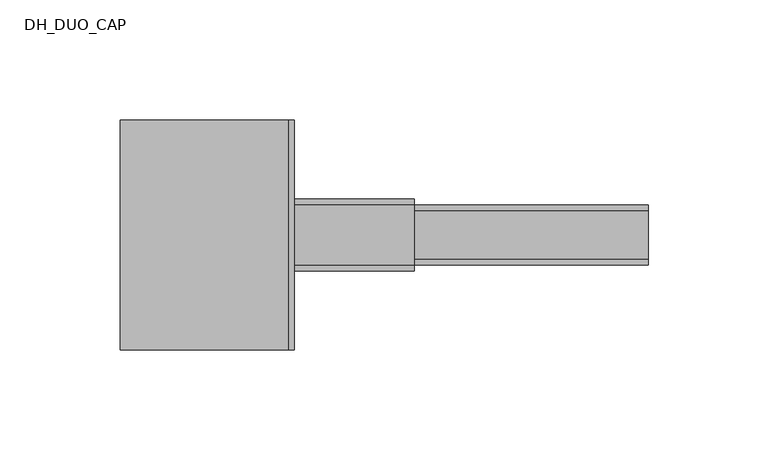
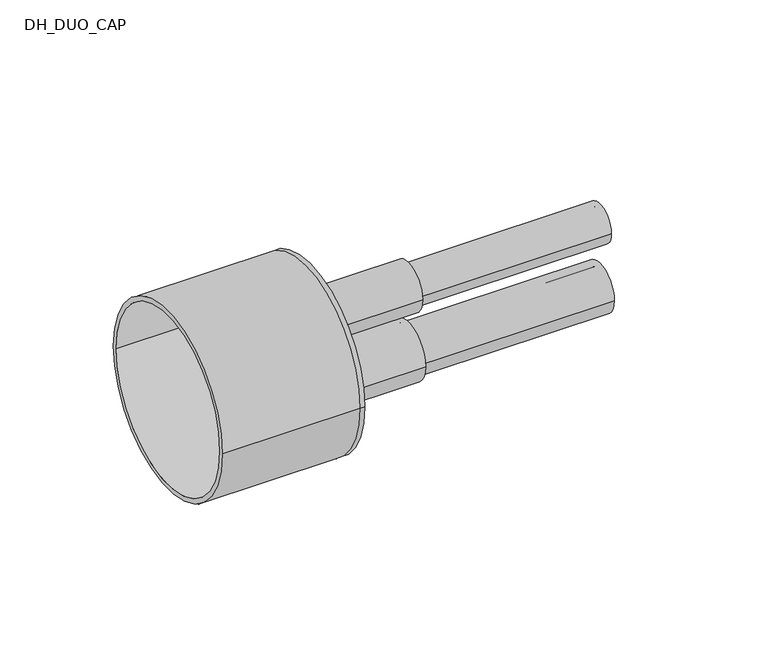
"""IFC4 building model written with IfcOpenShell, lengths in millimetres: pipe fitting geometry, DH_DUO_CAP : RAUTHERMEX DUO 7.4 DW - Schrink Cap."""

from ifc_helpers import new_model, si_unit, point, frame, frame_2d, origin, place, context, project, spatial, polyline, circle_curve, trimmed, segment, composite_curve, outline, extrude, source, transform, mapped, element, save
from ifc_brep_helpers import plane_surface, cylinder_surface, revolved_surface, advanced_brep


def dh_duo_cap_7bc42460(model_context):
    return source(origin(), model_context, "Body", "SolidModel", [
        extrude(outline(composite_curve([segment(trimmed(circle_curve(frame_2d((0.0, -16.0)), 12.5), [point((-12.5, -16.0))], [point((12.5, -16.0))], False, "CARTESIAN"), True, "CONTINUOUS"), segment(trimmed(circle_curve(frame_2d((0.0, -16.0)), 12.5), [point((12.5, -16.0))], [point((-12.5, -16.0))], False, "CARTESIAN"), True, "CONTINUOUS")], self_intersect=False), holes=[composite_curve([segment(trimmed(circle_curve(frame_2d((0.0, -16.0)), 9.0), [point((-9.0, -16.0))], [point((9.0, -16.0))], True, "CARTESIAN"), True, "CONTINUOUS"), segment(trimmed(circle_curve(frame_2d((0.0, -16.0)), 9.0), [point((9.0, -16.0))], [point((-9.0, -16.0))], True, "CARTESIAN"), True, "CONTINUOUS")], self_intersect=False)]), frame((0.0, 0.0, 0.0), z_axis=(1.0, 0.0, 0.0), x_axis=(0.0, 1.0, 0.0)), (0.0, 0.0, 1.0), 150.0),
        extrude(outline(composite_curve([segment(trimmed(circle_curve(frame_2d((0.0, 18.5)), 10.0), [point((-10.0, 18.5))], [point((10.0, 18.5))], False, "CARTESIAN"), True, "CONTINUOUS"), segment(trimmed(circle_curve(frame_2d((0.0, 18.5)), 10.0), [point((10.0, 18.5))], [point((-10.0, 18.5))], False, "CARTESIAN"), True, "CONTINUOUS")], self_intersect=False), holes=[composite_curve([segment(trimmed(circle_curve(frame_2d((0.0, 18.5)), 7.2), [point((-7.2, 18.5))], [point((7.2, 18.5))], True, "CARTESIAN"), True, "CONTINUOUS"), segment(trimmed(circle_curve(frame_2d((0.0, 18.5)), 7.2), [point((7.2, 18.5))], [point((-7.2, 18.5))], True, "CARTESIAN"), True, "CONTINUOUS")], self_intersect=False)]), frame((0.0, 0.0, 0.0), z_axis=(1.0, 0.0, 0.0), x_axis=(0.0, 1.0, 0.0)), (0.0, 0.0, 1.0), 150.0),
        advanced_brep(
        [(-70.0, -48.0, 0.0), (-70.0, 48.0, 0.0), (-70.0, -45.5, 0.0), (-70.0, 45.5, 0.0), (0.0, -45.5, 0.0), (0.0, 45.5, 0.0), (0.0, -48.0, 0.0), (0.0, 48.0, 0.0), (0.0, 10.0, 18.5), (0.0, -10.0, 18.5), (0.0, 12.5, -16.0), (0.0, -12.5, -16.0), (2.5, -48.0, 0.0), (2.5, 48.0, 0.0), (2.5, -10.0, 18.5), (2.5, 10.0, 18.5), (2.5, -12.5, -16.0), (2.5, 12.5, -16.0)],
        [
            (0, 1, circle_curve(frame((-70.0, 0.0, 0.0), z_axis=(-1.0, 0.0, 0.0), x_axis=(0.0, 1.0, 0.0)), 48.0)),
            (1, 0, circle_curve(frame((-70.0, 0.0, 0.0), z_axis=(-1.0, 0.0, 0.0), x_axis=(0.0, 1.0, 0.0)), 48.0)),
            (2, 3, circle_curve(frame((-70.0, 0.0, 0.0), z_axis=(1.0, 0.0, 0.0), x_axis=(0.0, 1.0, 0.0)), 45.5)),
            (3, 2, circle_curve(frame((-70.0, 0.0, 0.0), z_axis=(1.0, 0.0, 0.0), x_axis=(0.0, 1.0, 0.0)), 45.5)),
            (2, 4),
            (4, 5, circle_curve(frame((0.0, 0.0, 0.0), z_axis=(1.0, 0.0, 0.0), x_axis=(0.0, 1.0, 0.0)), 45.5)),
            (5, 3),
            (5, 4, circle_curve(frame((0.0, 0.0, 0.0), z_axis=(1.0, 0.0, 0.0), x_axis=(0.0, 1.0, 0.0)), 45.5)),
            (0, 6),
            (6, 7, circle_curve(frame((0.0, 0.0, 0.0), z_axis=(-1.0, 0.0, 0.0), x_axis=(0.0, 1.0, 0.0)), 48.0)),
            (7, 1),
            (7, 6, circle_curve(frame((0.0, 0.0, 0.0), z_axis=(-1.0, 0.0, 0.0), x_axis=(0.0, 1.0, 0.0)), 48.0)),
            (8, 9, circle_curve(frame((0.0, 0.0, 18.5), z_axis=(1.0, 0.0, 0.0), x_axis=(0.0, 1.0, 0.0)), 10.0)),
            (9, 8, circle_curve(frame((0.0, 0.0, 18.5), z_axis=(1.0, 0.0, 0.0), x_axis=(0.0, 1.0, 0.0)), 10.0)),
            (10, 11, circle_curve(frame((0.0, 0.0, -16.0), z_axis=(1.0, 0.0, 0.0), x_axis=(0.0, 1.0, 0.0)), 12.5)),
            (11, 10, circle_curve(frame((0.0, 0.0, -16.0), z_axis=(1.0, 0.0, 0.0), x_axis=(0.0, 1.0, 0.0)), 12.5)),
            (12, 13, circle_curve(frame((2.5, 0.0, 0.0), z_axis=(1.0, 0.0, 0.0), x_axis=(0.0, 1.0, 0.0)), 48.0)),
            (13, 12, circle_curve(frame((2.5, 0.0, 0.0), z_axis=(1.0, 0.0, 0.0), x_axis=(0.0, 1.0, 0.0)), 48.0)),
            (14, 15, circle_curve(frame((2.5, 0.0, 18.5), z_axis=(-1.0, 0.0, 0.0), x_axis=(0.0, 1.0, 0.0)), 10.0)),
            (15, 14, circle_curve(frame((2.5, 0.0, 18.5), z_axis=(-1.0, 0.0, 0.0), x_axis=(0.0, 1.0, 0.0)), 10.0)),
            (16, 17, circle_curve(frame((2.5, 0.0, -16.0), z_axis=(-1.0, 0.0, 0.0), x_axis=(0.0, 1.0, 0.0)), 12.5)),
            (17, 16, circle_curve(frame((2.5, 0.0, -16.0), z_axis=(-1.0, 0.0, 0.0), x_axis=(0.0, 1.0, 0.0)), 12.5)),
            (13, 7),
            (6, 12),
            (8, 15),
            (14, 9),
            (10, 17),
            (16, 11),
        ],
        [
            plane_surface(frame((-70.0, 0.0, 0.0), z_axis=(-1.0, 0.0, 0.0), x_axis=(0.0, 0.0, 1.0))),
            revolved_surface(polyline([(0.0, 45.5, 0.0), (-70.0, 45.5, 0.0)]), (-70.0, 0.0, 0.0), (1.0, 0.0, 0.0)),
            cylinder_surface(frame((-70.0, 0.0, 0.0), z_axis=(-1.0, 0.0, 0.0), x_axis=(0.0, 1.0, 0.0)), 48.0),
            plane_surface(frame((0.0, 0.0, 0.0), z_axis=(-1.0, 0.0, 0.0), x_axis=(0.0, 0.0, 1.0))),
            plane_surface(frame((2.5, 0.0, 0.0), z_axis=(1.0, 0.0, 0.0), x_axis=(0.0, 0.0, 1.0))),
            cylinder_surface(frame((0.0, 0.0, 0.0), z_axis=(-1.0, 0.0, 0.0), x_axis=(0.0, 1.0, 0.0)), 48.0),
            revolved_surface(polyline([(0.0, 10.0, 18.5), (2.5, 10.0, 18.5)]), (0.0, 0.0, 18.5), (-1.0, 0.0, 0.0)),
            revolved_surface(polyline([(0.0, 12.5, -16.0), (2.5, 12.5, -16.0)]), (0.0, 0.0, -16.0), (-1.0, 0.0, 0.0)),
        ],
        [
            (0, [[1, 2], [3, 4]]),
            (1, [[-3, 5, 6, 7]]),
            (1, [[-4, -7, 8, -5]]),
            (2, [[-1, 9, 10, 11]]),
            (2, [[-2, -11, 12, -9]]),
            (3, [[-6, -8], [13, 14], [15, 16]]),
            (4, [[17, 18], [19, 20], [21, 22]]),
            (5, [[-18, 23, -10, 24]]),
            (5, [[-17, -24, -12, -23]]),
            (6, [[25, -19, 26, -13]]),
            (6, [[-25, -14, -26, -20]]),
            (7, [[27, -21, 28, -15]]),
            (7, [[-27, -16, -28, -22]]),
        ],
    ),
        extrude(outline(composite_curve([segment(trimmed(circle_curve(frame_2d((0.0, -16.0)), 15.0), [point((-15.0, -16.0))], [point((15.0, -16.0))], False, "CARTESIAN"), True, "CONTINUOUS"), segment(trimmed(circle_curve(frame_2d((0.0, -16.0)), 15.0), [point((15.0, -16.0))], [point((-15.0, -16.0))], False, "CARTESIAN"), True, "CONTINUOUS")], self_intersect=False), holes=[composite_curve([segment(trimmed(circle_curve(frame_2d((0.0, -16.0)), 12.5), [point((-12.5, -16.0))], [point((12.5, -16.0))], True, "CARTESIAN"), True, "CONTINUOUS"), segment(trimmed(circle_curve(frame_2d((0.0, -16.0)), 12.5), [point((12.5, -16.0))], [point((-12.5, -16.0))], True, "CARTESIAN"), True, "CONTINUOUS")], self_intersect=False)]), frame((2.5, 0.0, 0.0), z_axis=(1.0, 0.0, 0.0), x_axis=(0.0, 1.0, 0.0)), (0.0, 0.0, 1.0), 50.0),
        extrude(outline(composite_curve([segment(trimmed(circle_curve(frame_2d((0.0, 18.5)), 12.5), [point((-12.5, 18.5))], [point((12.5, 18.5))], False, "CARTESIAN"), True, "CONTINUOUS"), segment(trimmed(circle_curve(frame_2d((0.0, 18.5)), 12.5), [point((12.5, 18.5))], [point((-12.5, 18.5))], False, "CARTESIAN"), True, "CONTINUOUS")], self_intersect=False), holes=[composite_curve([segment(trimmed(circle_curve(frame_2d((0.0, 18.5)), 10.0), [point((-10.0, 18.5))], [point((10.0, 18.5))], True, "CARTESIAN"), True, "CONTINUOUS"), segment(trimmed(circle_curve(frame_2d((0.0, 18.5)), 10.0), [point((10.0, 18.5))], [point((-10.0, 18.5))], True, "CARTESIAN"), True, "CONTINUOUS")], self_intersect=False)]), frame((2.5, 0.0, 0.0), z_axis=(1.0, 0.0, 0.0), x_axis=(0.0, 1.0, 0.0)), (0.0, 0.0, 1.0), 50.0),
    ])


if __name__ == "__main__":
    model = new_model("IFC4")
    model_context = context("Model", 3, world=origin())
    ifc_project = project(units=[si_unit("LENGTHUNIT", "METRE", prefix="MILLI")], contexts=[model_context])
    site = spatial("IfcSite", under=ifc_project)
    building = spatial("IfcBuilding", under=site)
    placement = place(None, origin())
    dh_duo_cap_shape = dh_duo_cap_7bc42460(model_context)
    element("IfcPipeFitting", 1, ObjectType="DH_DUO_CAP : RAUTHERMEX DUO 7.4 DW - Schrink Cap", at=placement, inside=building, context=model_context, shape_type="MappedRepresentation", body=[
        mapped(dh_duo_cap_shape, transform((0.0, 0.0, 0.0), x_axis=(1.0, 0.0, 0.0), y_axis=(0.0, 1.0, 0.0), z_axis=(0.0, 0.0, 1.0))),
    ])
    save(model, "model.ifc")
